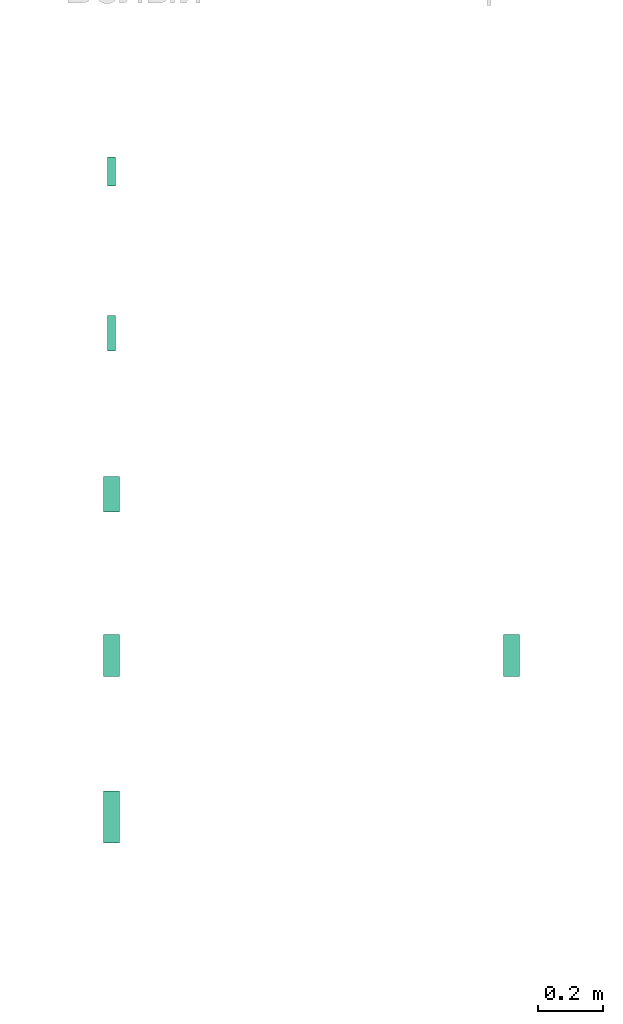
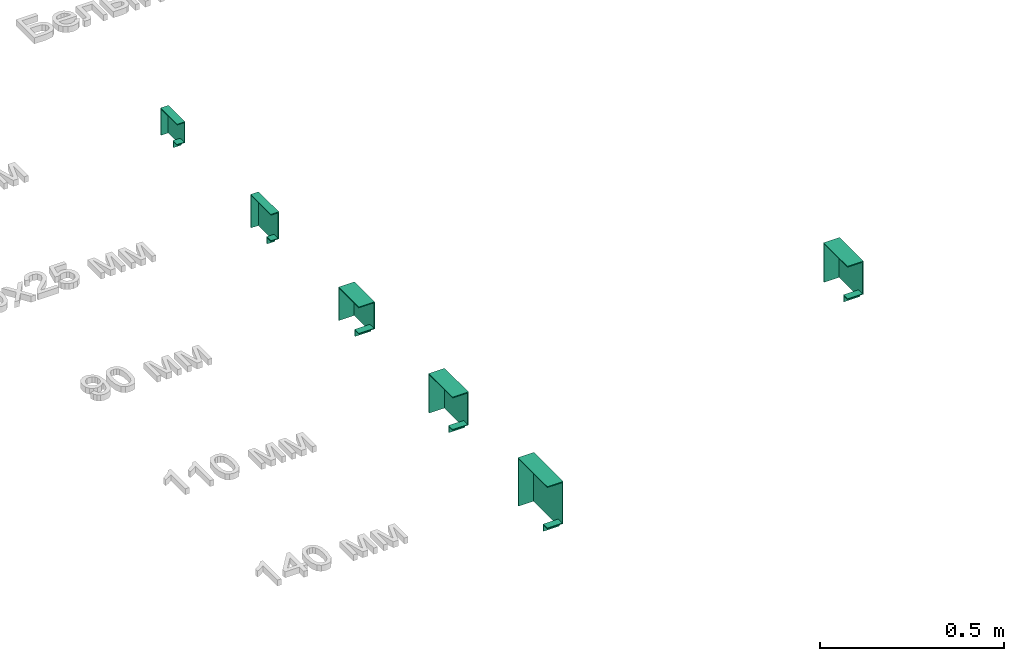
# One storey, part 20 of 87: 6 flow fittings.
"""IFC2X3 building model written with IfcOpenShell, lengths in millimetres."""

from ifc_helpers import new_model, entity, si_unit, converted_unit, derived_unit, direction, frame, origin, place, context, subcontext, project, spatial, faceted_brep, source, transform, mapped, material, type_object, type_shapes, element, save


model = new_model("IFC2X3")

# Units and contexts
model_context = context("Model", 3, precision=0.01, world=origin(), true_north=direction((6.12303176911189e-17, 1.0)))
body_context = subcontext(model_context, "Body", "Model", "MODEL_VIEW")
ifc_project = project(units=[si_unit("LENGTHUNIT", "METRE", prefix="MILLI"), si_unit("AREAUNIT", "SQUARE_METRE"), si_unit("VOLUMEUNIT", "CUBIC_METRE"), converted_unit("PLANEANGLEUNIT", "DEGREE", entity("IfcRatioMeasure", 0.0174532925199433), si_unit("PLANEANGLEUNIT", "RADIAN"), dimensions=[0, 0, 0, 0, 0, 0, 0]), si_unit("MASSUNIT", "GRAM", prefix="KILO"), derived_unit("MASSDENSITYUNIT", [(si_unit("MASSUNIT", "GRAM", prefix="KILO"), 1), (si_unit("LENGTHUNIT", "METRE"), -3)]), si_unit("TIMEUNIT", "SECOND"), si_unit("FREQUENCYUNIT", "HERTZ"), si_unit("THERMODYNAMICTEMPERATUREUNIT", "DEGREE_CELSIUS"), derived_unit("THERMALTRANSMITTANCEUNIT", [(si_unit("MASSUNIT", "GRAM", prefix="KILO"), 1), (si_unit("THERMODYNAMICTEMPERATUREUNIT", "KELVIN"), -1), (si_unit("TIMEUNIT", "SECOND"), -3)]), derived_unit("VOLUMETRICFLOWRATEUNIT", [(si_unit("LENGTHUNIT", "METRE"), 3), (si_unit("TIMEUNIT", "SECOND"), -1)]), si_unit("ELECTRICCURRENTUNIT", "AMPERE"), si_unit("ELECTRICVOLTAGEUNIT", "VOLT"), si_unit("POWERUNIT", "WATT"), si_unit("FORCEUNIT", "NEWTON", prefix="KILO"), si_unit("ILLUMINANCEUNIT", "LUX"), si_unit("LUMINOUSFLUXUNIT", "LUMEN"), si_unit("LUMINOUSINTENSITYUNIT", "CANDELA"), derived_unit("USERDEFINED", [(si_unit("MASSUNIT", "GRAM", prefix="KILO"), -1), (si_unit("LENGTHUNIT", "METRE"), -2), (si_unit("TIMEUNIT", "SECOND"), 3), (si_unit("LUMINOUSFLUXUNIT", "LUMEN"), 1)]), derived_unit("LINEARVELOCITYUNIT", [(si_unit("LENGTHUNIT", "METRE"), 1), (si_unit("TIMEUNIT", "SECOND"), -1)]), si_unit("PRESSUREUNIT", "PASCAL"), derived_unit("USERDEFINED", [(si_unit("LENGTHUNIT", "METRE"), -2), (si_unit("MASSUNIT", "GRAM", prefix="KILO"), 1), (si_unit("TIMEUNIT", "SECOND"), -2)])], contexts=[model_context])

# Site, building, storey
site_placement = place(None, origin())
site = spatial("IfcSite", under=ifc_project, at=site_placement, Name="Default", CompositionType="ELEMENT")
building_placement = place(site_placement, origin())
building = spatial("IfcBuilding", under=site, at=building_placement, Name="Наименование здания", CompositionType="ELEMENT")
storey_placement = place(building_placement, origin())
storey = spatial("IfcBuildingStorey", under=building, at=storey_placement, Name="Этаж 01", CompositionType="ELEMENT", Elevation=0.0)

# Flow fittings
ifc_material_1 = material(Name="DKC_Пластик_Белый")
cable_carrier_fitting_type_1 = type_object("IfcCableCarrierFittingType", Name="Угол плоский белый", PredefinedType="NOTDEFINED", material=ifc_material_1)
shared_shape_1 = source(origin(), body_context, "Body", "Brep", [
    faceted_brep([(-55.0, 35.0, -12.4999999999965), (-55.0, -35.0, -12.4999999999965), (-55.0, -35.0, 12.5000000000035), (-55.0, -32.4600000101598, 12.5000000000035), (-55.0, -32.4600000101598, -9.96000001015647), (-55.0, 32.4600000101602, -9.96000001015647), (-55.0, 32.4600000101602, 12.5000000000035), (-55.0, 35.0, 12.5000000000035), (-35.0, 35.0, -12.4999999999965), (-35.0, 55.0, -12.4999999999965), (35.0, 55.0, -12.4999999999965), (35.0, -35.0, -12.4999999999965), (35.0, -35.0, 12.5000000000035), (35.0, 55.0, 12.5000000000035), (32.4600000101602, 55.0, 12.5000000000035), (32.4600000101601, -32.4600000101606, 12.5000000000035), (32.4600000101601, -32.4600000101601, -9.96000001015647), (32.4600000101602, 55.0, -9.96000001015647), (-32.4600000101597, 55.0, -9.96000001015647), (-32.4600000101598, 32.4600000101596, -9.96000001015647), (-32.4600000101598, 32.4600000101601, 12.5000000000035), (-32.4600000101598, 55.0, 12.5000000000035), (-35.0, 55.0, 12.5000000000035), (-35.0, 35.0, 12.5000000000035)], [[[0, 1, 2, 3, 4, 5, 6, 7]], [[1, 0, 8, 9, 10, 11]], [[2, 1, 11, 12]], [[3, 2, 12, 13, 14, 15]], [[4, 3, 15, 16]], [[5, 4, 16, 17, 18, 19]], [[6, 5, 19, 20]], [[7, 6, 20, 21, 22, 23]], [[0, 7, 23, 8]], [[9, 22, 21, 18, 17, 14, 13, 10]], [[12, 11, 10, 13]], [[16, 15, 14, 17]], [[20, 19, 18, 21]], [[8, 23, 22, 9]]]),
])
type_shapes(cable_carrier_fitting_type_1, [shared_shape_1])
flow_fitting_1_placement = place(storey_placement, frame((13044.7482919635, -4278.58303818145, 0.0), z_axis=(-1.0, 0.0, 0.0), x_axis=(0.0, 1.0, 0.0)))
element("IfcFlowFitting", 1, at=flow_fitting_1_placement, inside=storey, type_object=cable_carrier_fitting_type_1, material=ifc_material_1, Name="КНС_УголПлоский_ILF_DKC:Угол плоский белый", ObjectType="Угол плоский белый", context=body_context, shape_type="MappedRepresentation", body=[
    mapped(shared_shape_1, transform((0.0, 0.0, 0.0), scale=1.0)),
])
cable_carrier_fitting_type_2 = type_object("IfcCableCarrierFittingType", Name="Угол плоский белый", PredefinedType="NOTDEFINED", material=ifc_material_1)
shared_shape_2 = source(origin(), body_context, "Body", "Brep", [
    faceted_brep([(-65.0, 45.0, -12.4999999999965), (-65.0, -45.0, -12.4999999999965), (-65.0, -45.0, 12.5000000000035), (-65.0, -42.4600000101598, 12.5000000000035), (-65.0, -42.4600000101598, -9.96000001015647), (-65.0, 42.4600000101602, -9.96000001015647), (-65.0, 42.4600000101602, 12.5000000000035), (-65.0, 45.0, 12.5000000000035), (-45.0, 45.0, -12.4999999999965), (-45.0, 65.0, -12.4999999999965), (45.0, 65.0, -12.4999999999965), (45.0, -45.0, -12.4999999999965), (45.0, -45.0, 12.5000000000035), (45.0, 65.0, 12.5000000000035), (42.4600000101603, 65.0, 12.5000000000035), (42.4600000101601, -42.4600000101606, 12.5000000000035), (42.4600000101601, -42.4600000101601, -9.96000001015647), (42.4600000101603, 65.0, -9.96000001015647), (-42.4600000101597, 65.0, -9.96000001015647), (-42.4600000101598, 42.4600000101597, -9.96000001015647), (-42.4600000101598, 42.4600000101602, 12.5000000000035), (-42.4600000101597, 65.0, 12.5000000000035), (-45.0, 65.0, 12.5000000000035), (-45.0, 45.0, 12.5000000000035)], [[[0, 1, 2, 3, 4, 5, 6, 7]], [[1, 0, 8, 9, 10, 11]], [[2, 1, 11, 12]], [[3, 2, 12, 13, 14, 15]], [[4, 3, 15, 16]], [[5, 4, 16, 17, 18, 19]], [[6, 5, 19, 20]], [[7, 6, 20, 21, 22, 23]], [[0, 7, 23, 8]], [[9, 22, 21, 18, 17, 14, 13, 10]], [[12, 11, 10, 13]], [[16, 15, 14, 17]], [[20, 19, 18, 21]], [[8, 23, 22, 9]]]),
])
type_shapes(cable_carrier_fitting_type_2, [shared_shape_2])
flow_fitting_2_placement = place(storey_placement, frame((13044.7482919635, -4778.58303818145, 0.0), z_axis=(-1.0, 0.0, 0.0), x_axis=(0.0, 1.0, 0.0)))
element("IfcFlowFitting", 2, at=flow_fitting_2_placement, inside=storey, type_object=cable_carrier_fitting_type_2, material=ifc_material_1, Name="КНС_УголПлоский_ILF_DKC:Угол плоский белый", ObjectType="Угол плоский белый", context=body_context, shape_type="MappedRepresentation", body=[
    mapped(shared_shape_2, transform((0.0, 0.0, 0.0), scale=1.0)),
])
cable_carrier_fitting_type_3 = type_object("IfcCableCarrierFittingType", Name="Угол плоский белый", PredefinedType="NOTDEFINED", material=ifc_material_1)
shared_shape_3 = source(origin(), body_context, "Body", "Brep", [
    faceted_brep([(-65.0, 45.0, -25.0), (-65.0, -45.0, -25.0), (-65.0, -45.0, 25.0), (-65.0, -42.4600000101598, 25.0), (-65.0, -42.4600000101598, -22.4600000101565), (-65.0, 42.4600000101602, -22.4600000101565), (-65.0, 42.4600000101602, 25.0), (-65.0, 45.0, 25.0), (-45.0, 45.0, -25.0), (-45.0, 65.0, -25.0), (45.0, 65.0, -25.0), (45.0, -45.0, -25.0), (45.0, -45.0, 25.0), (45.0, 65.0, 25.0), (42.4600000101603, 65.0, 25.0), (42.4600000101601, -42.4600000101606, 25.0), (42.4600000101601, -42.4600000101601, -22.4600000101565), (42.4600000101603, 65.0, -22.4600000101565), (-42.4600000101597, 65.0, -22.4600000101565), (-42.4600000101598, 42.4600000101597, -22.4600000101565), (-42.4600000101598, 42.4600000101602, 25.0), (-42.4600000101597, 65.0, 25.0), (-45.0, 65.0, 25.0), (-45.0, 45.0, 25.0)], [[[0, 1, 2, 3, 4, 5, 6, 7]], [[1, 0, 8, 9, 10, 11]], [[2, 1, 11, 12]], [[3, 2, 12, 13, 14, 15]], [[4, 3, 15, 16]], [[5, 4, 16, 17, 18, 19]], [[6, 5, 19, 20]], [[7, 6, 20, 21, 22, 23]], [[0, 7, 23, 8]], [[9, 22, 21, 18, 17, 14, 13, 10]], [[12, 11, 10, 13]], [[16, 15, 14, 17]], [[20, 19, 18, 21]], [[8, 23, 22, 9]]]),
])
type_shapes(cable_carrier_fitting_type_3, [shared_shape_3])
flow_fitting_3_placement = place(storey_placement, frame((13044.7482919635, -5278.58303818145, 0.0), z_axis=(-1.0, 0.0, 0.0), x_axis=(0.0, 1.0, 0.0)))
element("IfcFlowFitting", 3, at=flow_fitting_3_placement, inside=storey, type_object=cable_carrier_fitting_type_3, material=ifc_material_1, Name="КНС_УголПлоский_ILF_DKC:Угол плоский белый", ObjectType="Угол плоский белый", context=body_context, shape_type="MappedRepresentation", body=[
    mapped(shared_shape_3, transform((0.0, 0.0, 0.0), scale=1.0)),
])
cable_carrier_fitting_type_4 = type_object("IfcCableCarrierFittingType", Name="Угол плоский белый", PredefinedType="NOTDEFINED", material=ifc_material_1)
shared_shape_4 = source(origin(), body_context, "Body", "Brep", [
    faceted_brep([(-75.0, 55.0, -25.0), (-75.0, -55.0, -25.0), (-75.0, -55.0, 25.0), (-75.0, -52.4600000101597, 25.0), (-75.0, -52.4600000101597, -22.4600000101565), (-75.0, 52.4600000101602, -22.4600000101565), (-75.0, 52.4600000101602, 25.0), (-75.0, 55.0, 25.0), (-55.0, 55.0, -25.0), (-55.0, 75.0, -25.0), (55.0, 75.0, -25.0), (55.0, -55.0, -25.0), (55.0, -55.0, 25.0), (55.0, 75.0, 25.0), (52.4600000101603, 75.0, 25.0), (52.4600000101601, -52.4600000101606, 25.0), (52.4600000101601, -52.4600000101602, -22.4600000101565), (52.4600000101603, 75.0, -22.4600000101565), (-52.4600000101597, 75.0, -22.4600000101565), (-52.4600000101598, 52.4600000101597, -22.4600000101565), (-52.4600000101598, 52.4600000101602, 25.0), (-52.4600000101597, 75.0, 25.0), (-55.0, 75.0, 25.0), (-55.0, 55.0, 25.0)], [[[0, 1, 2, 3, 4, 5, 6, 7]], [[1, 0, 8, 9, 10, 11]], [[2, 1, 11, 12]], [[3, 2, 12, 13, 14, 15]], [[4, 3, 15, 16]], [[5, 4, 16, 17, 18, 19]], [[6, 5, 19, 20]], [[7, 6, 20, 21, 22, 23]], [[0, 7, 23, 8]], [[9, 22, 21, 18, 17, 14, 13, 10]], [[12, 11, 10, 13]], [[16, 15, 14, 17]], [[20, 19, 18, 21]], [[8, 23, 22, 9]]]),
])
type_shapes(cable_carrier_fitting_type_4, [shared_shape_4])
flow_fitting_4_placement = place(storey_placement, frame((13044.7482919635, -5778.58303818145, 0.0), z_axis=(-1.0, 0.0, 0.0), x_axis=(0.0, 1.0, 0.0)))
element("IfcFlowFitting", 4, at=flow_fitting_4_placement, inside=storey, type_object=cable_carrier_fitting_type_4, material=ifc_material_1, Name="КНС_УголПлоский_ILF_DKC:Угол плоский белый", ObjectType="Угол плоский белый", context=body_context, shape_type="MappedRepresentation", body=[
    mapped(shared_shape_4, transform((0.0, 0.0, 0.0), scale=1.0)),
])
ifc_material_2 = material(Name="DKC_Пластик_Серо-черный")
cable_carrier_fitting_type_5 = type_object("IfcCableCarrierFittingType", Name="Угол плоский черный", PredefinedType="NOTDEFINED", material=ifc_material_2)
shared_shape_5 = source(origin(), body_context, "Body", "Brep", [
    faceted_brep([(-75.0, 55.0, -25.0), (-75.0, -55.0, -25.0), (-75.0, -55.0, 25.0), (-75.0, -52.4600000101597, 25.0), (-75.0, -52.4600000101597, -22.4600000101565), (-75.0, 52.4600000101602, -22.4600000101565), (-75.0, 52.4600000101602, 25.0), (-75.0, 55.0, 25.0), (-55.0, 55.0, -25.0), (-55.0, 75.0, -25.0), (55.0, 75.0, -25.0), (55.0, -55.0, -25.0), (55.0, -55.0, 25.0), (55.0, 75.0, 25.0), (52.4600000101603, 75.0, 25.0), (52.4600000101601, -52.4600000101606, 25.0), (52.4600000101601, -52.4600000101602, -22.4600000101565), (52.4600000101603, 75.0, -22.4600000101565), (-52.4600000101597, 75.0, -22.4600000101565), (-52.4600000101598, 52.4600000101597, -22.4600000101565), (-52.4600000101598, 52.4600000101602, 25.0), (-52.4600000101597, 75.0, 25.0), (-55.0, 75.0, 25.0), (-55.0, 55.0, 25.0)], [[[0, 1, 2, 3, 4, 5, 6, 7]], [[1, 0, 8, 9, 10, 11]], [[2, 1, 11, 12]], [[3, 2, 12, 13, 14, 15]], [[4, 3, 15, 16]], [[5, 4, 16, 17, 18, 19]], [[6, 5, 19, 20]], [[7, 6, 20, 21, 22, 23]], [[0, 7, 23, 8]], [[9, 22, 21, 18, 17, 14, 13, 10]], [[12, 11, 10, 13]], [[16, 15, 14, 17]], [[20, 19, 18, 21]], [[8, 23, 22, 9]]]),
])
type_shapes(cable_carrier_fitting_type_5, [shared_shape_5])
flow_fitting_5_placement = place(storey_placement, frame((14284.7482919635, -5778.58303818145, 0.0), z_axis=(-1.0, 0.0, 0.0), x_axis=(0.0, 1.0, 0.0)))
element("IfcFlowFitting", 5, at=flow_fitting_5_placement, inside=storey, type_object=cable_carrier_fitting_type_5, material=ifc_material_2, Name="КНС_УголПлоский_ILF_DKC:Угол плоский черный", ObjectType="Угол плоский черный", context=body_context, shape_type="MappedRepresentation", body=[
    mapped(shared_shape_5, transform((0.0, 0.0, 0.0), scale=1.0)),
])
cable_carrier_fitting_type_6 = type_object("IfcCableCarrierFittingType", Name="Угол плоский белый", PredefinedType="NOTDEFINED", material=ifc_material_1)
shared_shape_6 = source(origin(), body_context, "Body", "Brep", [
    faceted_brep([(-90.0, 70.0, -25.0), (-90.0, -70.0, -25.0), (-90.0, -70.0, 25.0), (-90.0, -67.4600000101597, 25.0), (-90.0, -67.4600000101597, -22.4600000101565), (-90.0, 67.4600000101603, -22.4600000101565), (-90.0, 67.4600000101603, 25.0), (-90.0, 70.0, 25.0), (-70.0, 70.0, -25.0), (-70.0, 90.0, -25.0), (70.0, 90.0, -25.0), (70.0, -70.0, -25.0), (70.0, -70.0, 25.0), (70.0, 90.0, 25.0), (67.4600000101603, 90.0, 25.0), (67.4600000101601, -67.4600000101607, 25.0), (67.4600000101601, -67.4600000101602, -22.4600000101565), (67.4600000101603, 90.0, -22.4600000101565), (-67.4600000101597, 90.0, -22.4600000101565), (-67.4600000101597, 67.4600000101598, -22.4600000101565), (-67.4600000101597, 67.4600000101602, 25.0), (-67.4600000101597, 90.0, 25.0), (-70.0, 90.0, 25.0), (-70.0, 70.0, 25.0)], [[[0, 1, 2, 3, 4, 5, 6, 7]], [[1, 0, 8, 9, 10, 11]], [[2, 1, 11, 12]], [[3, 2, 12, 13, 14, 15]], [[4, 3, 15, 16]], [[5, 4, 16, 17, 18, 19]], [[6, 5, 19, 20]], [[7, 6, 20, 21, 22, 23]], [[0, 7, 23, 8]], [[9, 22, 21, 18, 17, 14, 13, 10]], [[12, 11, 10, 13]], [[16, 15, 14, 17]], [[20, 19, 18, 21]], [[8, 23, 22, 9]]]),
])
type_shapes(cable_carrier_fitting_type_6, [shared_shape_6])
flow_fitting_6_placement = place(storey_placement, frame((13044.7482919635, -6278.58303818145, 0.0), z_axis=(-1.0, 0.0, 0.0), x_axis=(0.0, 1.0, 0.0)))
element("IfcFlowFitting", 6, at=flow_fitting_6_placement, inside=storey, type_object=cable_carrier_fitting_type_6, material=ifc_material_1, Name="КНС_УголПлоский_ILF_DKC:Угол плоский белый", ObjectType="Угол плоский белый", context=body_context, shape_type="MappedRepresentation", body=[
    mapped(shared_shape_6, transform((0.0, 0.0, 0.0), scale=1.0)),
])

save(model, "model.ifc")
